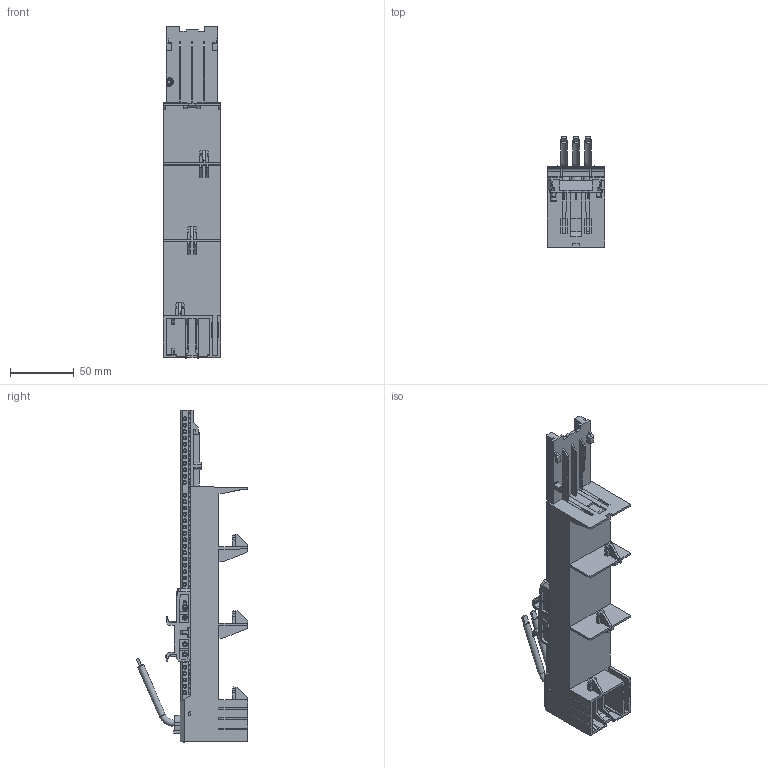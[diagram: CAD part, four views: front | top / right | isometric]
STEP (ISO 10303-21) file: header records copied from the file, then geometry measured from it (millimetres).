
FILE_DESCRIPTION (( 'STEP AP203' ), '1' );
FILE_NAME ('55321.STEP', '2021-08-17T00:46:36', ( '' ), ( '' ), 'SwSTEP 2.0', 'SolidWorks 2017', '' );
FILE_SCHEMA (( 'CONFIG_CONTROL_DESIGN' ));
Products named in the file (2): 55321
Bounding box: 45.01 x 87.2 x 260.7 mm (x, y, z)
Volume: 259418.2 mm3; surface area: 87085.2 mm2
Topology: 5 solids, 14 shells, 2209 faces, 6156 edges, 4150 vertices
Faces by surface type: plane 1294, cylinder 691, cone 204, bspline 17, torus 3
Full cylindrical faces by diameter (mm): 1.988 x174, 2.584 x1, 2.779 x4, 2.882 x6, 2.982 x174, 4.864 x4, 5 x6, 5.169 x2
Entity records: 81365 total; most frequent: CARTESIAN_POINT 30215, ORIENTED_EDGE 10830, DIRECTION 8930, EDGE_CURVE 5415, VERTEX_POINT 3966, LINE 3044, VECTOR 3044, EDGE_LOOP 3019
